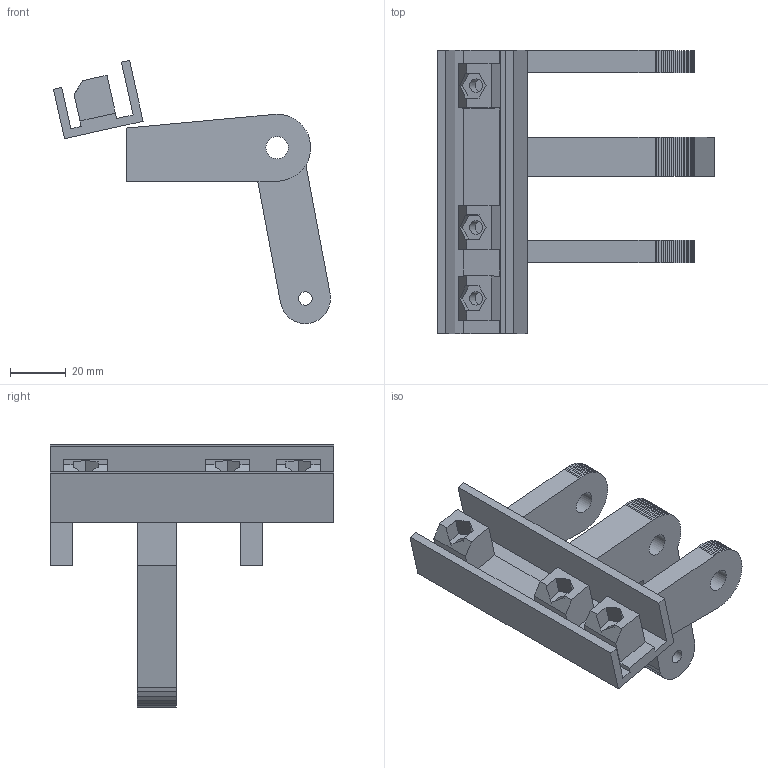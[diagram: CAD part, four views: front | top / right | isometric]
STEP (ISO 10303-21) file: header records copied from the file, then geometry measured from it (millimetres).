
FILE_DESCRIPTION(('Open CASCADE Model'),'2;1');
FILE_NAME('Open CASCADE Shape Model','2026-10-15T19:33:11',('Author'),( 'Open CASCADE'),'Open CASCADE STEP processor 7.9','Open CASCADE 7.9' ,'Unknown');
FILE_SCHEMA(('AUTOMOTIVE_DESIGN { 1 0 10303 214 1 1 1 1 }'));
Length unit declared in the file: millimetre
Products named in the file (5): Open CASCADE STEP translator 7.9 1; Open CASCADE STEP translator 7.9 1.1; Open CASCADE STEP translator 7.9 1.2; Open CASCADE STEP translator 7.9 1.3; Open CASCADE STEP translator 7.9 1.4
Assembly tree (4 placements, depth 2):
  Open CASCADE STEP translator 7.9 1
    Open CASCADE STEP translator 7.9 1.1
    Open CASCADE STEP translator 7.9 1.2
    Open CASCADE STEP translator 7.9 1.3
    Open CASCADE STEP translator 7.9 1.4
Bounding box: 99.23 x 101.6 x 94.32 mm (x, y, z)
Volume: 81077.5 mm3; surface area: 34672.3 mm2
Topology: 4 solids, 4 shells, 231 faces, 660 edges, 440 vertices
Faces by surface type: plane 224, cylinder 7
Full cylindrical faces by diameter (mm): 4.8 x3, 4.9 x1, 8 x3
Entity records: 16028 total; most frequent: CARTESIAN_POINT 2814, DIRECTION 2378, LINE 1878, VECTOR 1878, ORIENTED_EDGE 1320, PCURVE 1320, DEFINITIONAL_REPRESENTATION 1320, EDGE_CURVE 660
